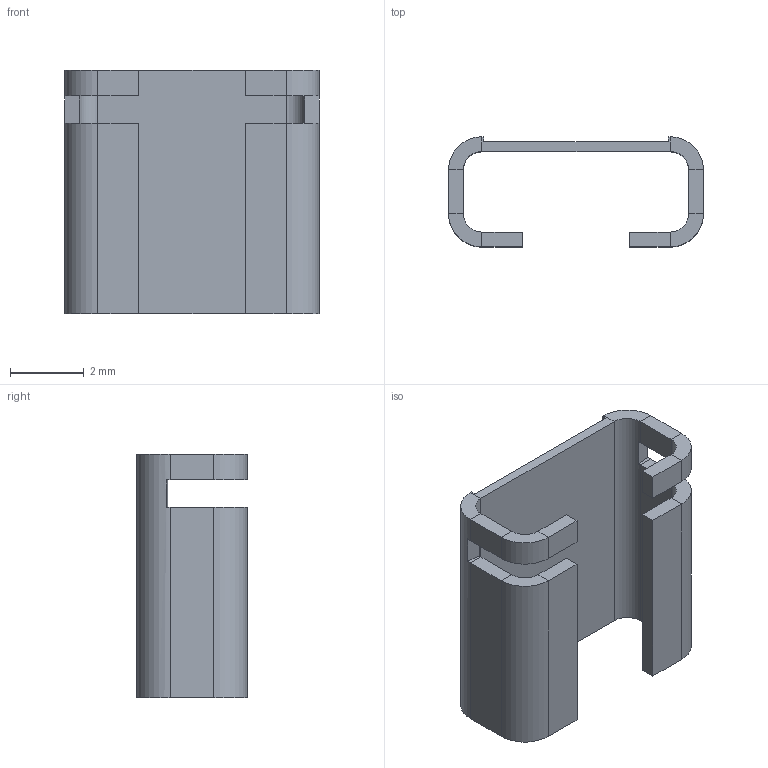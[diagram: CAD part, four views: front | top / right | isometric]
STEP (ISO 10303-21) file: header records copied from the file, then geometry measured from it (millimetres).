
FILE_DESCRIPTION (( 'STEP AP203' ), '1' );
FILE_NAME ('RSHJ2726-4.0m次-F曾磁踢.STEP', '2023-07-17T03:05:34', ( '' ), ( '' ), 'SwSTEP 2.0', 'SolidWorks 2020', '' );
FILE_SCHEMA (( 'CONFIG_CONTROL_DESIGN' ));
Length unit declared in the file: millimetre
Products named in the file (1): RSHJ2726-4.0m次-F曾磁踢
Bounding box: 6.9 x 2.98 x 6.6 mm (x, y, z)
Volume: 30.8 mm3; surface area: 197.8 mm2
Topology: 1 solids, 1 shells, 74 faces, 160 edges, 88 vertices
Faces by surface type: plane 62, cylinder 12
Entity records: 2005 total; most frequent: DIRECTION 342, CARTESIAN_POINT 323, ORIENTED_EDGE 320, EDGE_CURVE 160, VECTOR 128, LINE 128, AXIS2_PLACEMENT_3D 107, VERTEX_POINT 88
